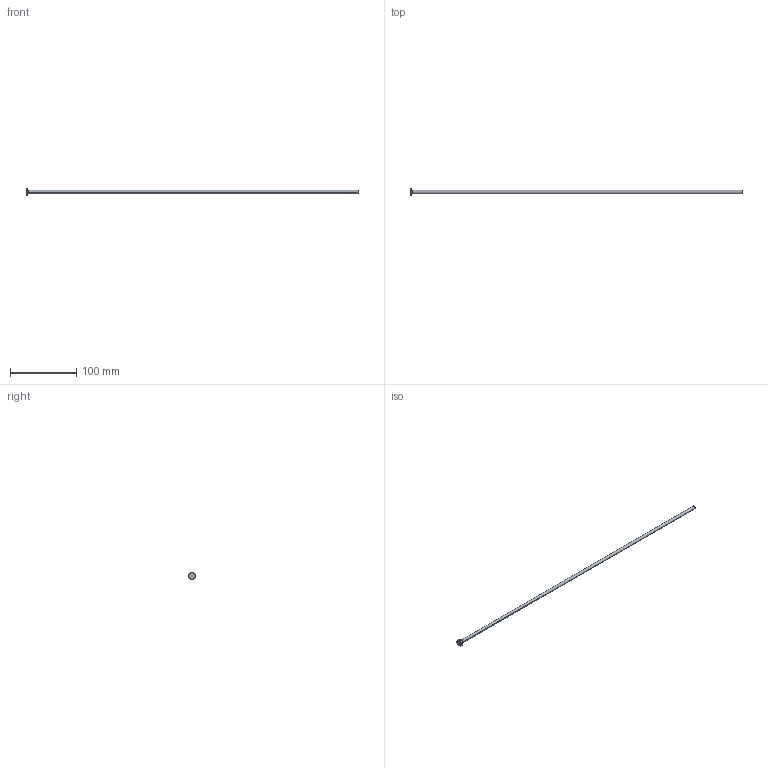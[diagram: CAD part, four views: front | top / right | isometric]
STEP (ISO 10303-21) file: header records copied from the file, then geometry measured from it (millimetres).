
FILE_DESCRIPTION (( 'STEP AP214' ), '1' );
FILE_NAME ('A-5x500.STEP', '2020-05-29T15:35:25', ( 'August' ), ( '' ), 'SwSTEP 2.0', 'SolidWorks 2018', '' );
FILE_SCHEMA (( 'AUTOMOTIVE_DESIGN' ));
Length unit declared in the file: millimetre
Products named in the file (1): A-5x500
Bounding box: 500 x 10 x 10 mm (x, y, z)
Volume: 9994.5 mm3; surface area: 8056.2 mm2
Topology: 1 solids, 1 shells, 9 faces, 16 edges, 10 vertices
Faces by surface type: cylinder 4, plane 3, torus 2
Entity records: 260 total; most frequent: DIRECTION 48, CARTESIAN_POINT 36, ORIENTED_EDGE 32, AXIS2_PLACEMENT_3D 22, EDGE_CURVE 16, CIRCLE 12, VERTEX_POINT 10, EDGE_LOOP 10
